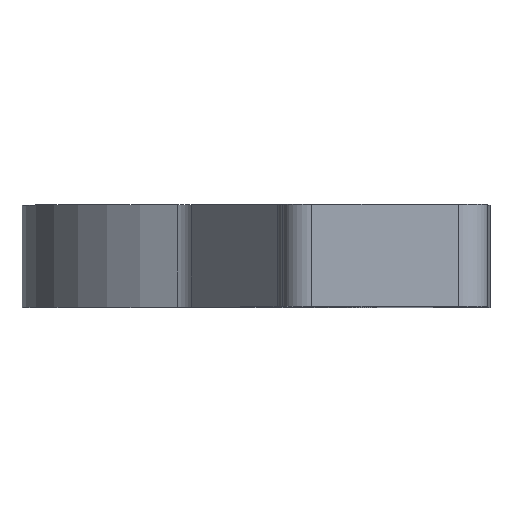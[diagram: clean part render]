
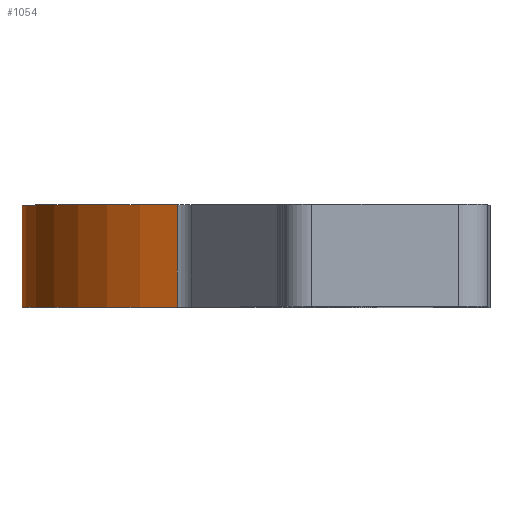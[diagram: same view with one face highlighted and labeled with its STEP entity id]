
A CAD part, top view. The second image highlights one B-rep face of the part: STEP entity #1054.
In plain terms, the highlighted cylindrical face has radius 50.8 mm (diameter 101.6 mm), a partial arc.
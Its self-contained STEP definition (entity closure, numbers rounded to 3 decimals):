
#20 = CARTESIAN_POINT ( 'NONE',  ( 0., 22.225, -29.517 ) ) ;
#23 = LINE ( 'NONE', #602, #410 ) ;
#97 = DIRECTION ( 'NONE',  ( 0., -1., 0. ) ) ;
#155 = EDGE_CURVE ( 'NONE', #1156, #568, #347, .T. ) ;
#179 = VERTEX_POINT ( 'NONE', #474 ) ;
#204 = DIRECTION ( 'NONE',  ( 0., 1., 0. ) ) ;
#216 = ORIENTED_EDGE ( 'NONE', *, *, #155, .T. ) ;
#245 = ORIENTED_EDGE ( 'NONE', *, *, #1072, .F. ) ;
#285 = CARTESIAN_POINT ( 'NONE',  ( 0., 22.225, -80.317 ) ) ;
#300 = ORIENTED_EDGE ( 'NONE', *, *, #350, .T. ) ;
#310 = AXIS2_PLACEMENT_3D ( 'NONE', #980, #1058, #1066 ) ;
#319 = DIRECTION ( 'NONE',  ( 0., 1., 0. ) ) ;
#347 = CIRCLE ( 'NONE', #310, 50.8 ) ;
#350 = EDGE_CURVE ( 'NONE', #568, #179, #792, .T. ) ;
#378 = DIRECTION ( 'NONE',  ( 0., 0., 1. ) ) ;
#383 = DIRECTION ( 'NONE',  ( 0., 0., -1. ) ) ;
#400 = CARTESIAN_POINT ( 'NONE',  ( -17.08, 22.225, 18.326 ) ) ;
#410 = VECTOR ( 'NONE', #497, 1000. ) ;
#429 = CIRCLE ( 'NONE', #860, 50.8 ) ;
#451 = ORIENTED_EDGE ( 'NONE', *, *, #768, .T. ) ;
#474 = CARTESIAN_POINT ( 'NONE',  ( -17.08, 22.225, 18.326 ) ) ;
#488 = VECTOR ( 'NONE', #319, 1000. ) ;
#497 = DIRECTION ( 'NONE',  ( 0., -1., 0. ) ) ;
#568 = VERTEX_POINT ( 'NONE', #1158 ) ;
#602 = CARTESIAN_POINT ( 'NONE',  ( 0., 22.225, -80.317 ) ) ;
#685 = CYLINDRICAL_SURFACE ( 'NONE', #798, 50.8 ) ;
#768 = EDGE_CURVE ( 'NONE', #1040, #1156, #23, .T. ) ;
#792 = LINE ( 'NONE', #400, #488 ) ;
#798 = AXIS2_PLACEMENT_3D ( 'NONE', #20, #97, #383 ) ;
#811 = CARTESIAN_POINT ( 'NONE',  ( 0., 0., -80.317 ) ) ;
#860 = AXIS2_PLACEMENT_3D ( 'NONE', #866, #204, #378 ) ;
#866 = CARTESIAN_POINT ( 'NONE',  ( 0., 22.225, -29.517 ) ) ;
#980 = CARTESIAN_POINT ( 'NONE',  ( 0., 0., -29.517 ) ) ;
#983 = FACE_OUTER_BOUND ( 'NONE', #1060, .T. ) ;
#1040 = VERTEX_POINT ( 'NONE', #285 ) ;
#1054 = ADVANCED_FACE ( 'NONE', ( #983 ), #685, .T. ) ;
#1058 = DIRECTION ( 'NONE',  ( 0., 1., 0. ) ) ;
#1060 = EDGE_LOOP ( 'NONE', ( #245, #451, #216, #300 ) ) ;
#1066 = DIRECTION ( 'NONE',  ( 0., 0., 1. ) ) ;
#1072 = EDGE_CURVE ( 'NONE', #1040, #179, #429, .T. ) ;
#1156 = VERTEX_POINT ( 'NONE', #811 ) ;
#1158 = CARTESIAN_POINT ( 'NONE',  ( -17.08, 0., 18.326 ) ) ;
